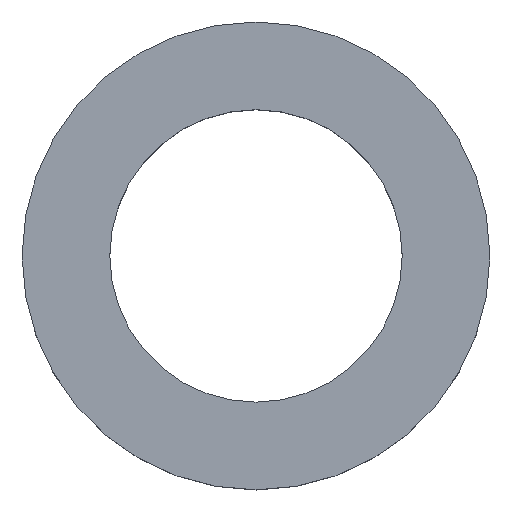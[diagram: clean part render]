
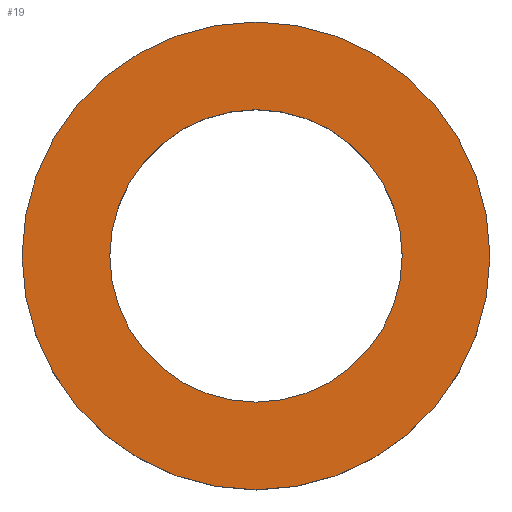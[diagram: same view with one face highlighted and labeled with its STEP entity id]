
A CAD part, top view. The second image highlights one B-rep face of the part: STEP entity #19.
In plain terms, the highlighted planar face has unit normal (0, 0, 1).
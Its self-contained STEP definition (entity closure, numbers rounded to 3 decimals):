
#15=FACE_BOUND('',#33,.T.);
#19=ADVANCED_FACE('',(#25,#15),#101,.T.);
#25=FACE_OUTER_BOUND('',#32,.T.);
#32=EDGE_LOOP('',(#48,#49));
#33=EDGE_LOOP('',(#50,#51));
#48=ORIENTED_EDGE('',*,*,#62,.T.);
#49=ORIENTED_EDGE('',*,*,#68,.T.);
#50=ORIENTED_EDGE('',*,*,#65,.T.);
#51=ORIENTED_EDGE('',*,*,#71,.T.);
#62=EDGE_CURVE('',#93,#97,#77,.T.);
#65=EDGE_CURVE('',#95,#99,#79,.T.);
#68=EDGE_CURVE('',#97,#93,#81,.T.);
#71=EDGE_CURVE('',#99,#95,#83,.T.);
#77=TRIMMED_CURVE($,#85,(#256),(#257),.T.,.CARTESIAN.);
#79=TRIMMED_CURVE($,#87,(#264),(#265),.T.,.CARTESIAN.);
#81=TRIMMED_CURVE($,#89,(#272),(#273),.T.,.CARTESIAN.);
#83=TRIMMED_CURVE($,#91,(#280),(#281),.T.,.CARTESIAN.);
#85=CIRCLE('',#201,4.);
#87=CIRCLE('',#203,2.5);
#89=CIRCLE('',#205,4.);
#91=CIRCLE('',#207,2.5);
#93=VERTEX_POINT('',#243);
#95=VERTEX_POINT('',#245);
#97=VERTEX_POINT('',#247);
#99=VERTEX_POINT('',#249);
#101=PLANE('',#197);
#197=AXIS2_PLACEMENT_3D('',#239,#214,$);
#201=AXIS2_PLACEMENT_3D($,#255,#219,#220);
#203=AXIS2_PLACEMENT_3D($,#263,#223,#224);
#205=AXIS2_PLACEMENT_3D($,#271,#227,#228);
#207=AXIS2_PLACEMENT_3D($,#279,#231,#232);
#214=DIRECTION('',(0.,0.,1.));
#219=DIRECTION('',(0.,0.,1.));
#220=DIRECTION('',(1.,0.,0.));
#223=DIRECTION('',(0.,0.,-1.));
#224=DIRECTION('',(1.,0.,0.));
#227=DIRECTION('',(0.,0.,1.));
#228=DIRECTION('',(-1.,0.,0.));
#231=DIRECTION('',(0.,0.,-1.));
#232=DIRECTION('',(-1.,0.,0.));
#239=CARTESIAN_POINT('',(-47.046,546.918,1.5));
#243=CARTESIAN_POINT('',(-38.046,551.918,1.5));
#245=CARTESIAN_POINT('',(-39.546,551.918,1.5));
#247=CARTESIAN_POINT('',(-46.046,551.918,1.5));
#249=CARTESIAN_POINT('',(-44.546,551.918,1.5));
#255=CARTESIAN_POINT('',(-42.046,551.918,1.5));
#256=CARTESIAN_POINT('',(-38.046,551.918,1.5));
#257=CARTESIAN_POINT('',(-46.046,551.918,1.5));
#263=CARTESIAN_POINT('',(-42.046,551.918,1.5));
#264=CARTESIAN_POINT('',(-39.546,551.918,1.5));
#265=CARTESIAN_POINT('',(-44.546,551.918,1.5));
#271=CARTESIAN_POINT('',(-42.046,551.918,1.5));
#272=CARTESIAN_POINT('',(-46.046,551.918,1.5));
#273=CARTESIAN_POINT('',(-38.046,551.918,1.5));
#279=CARTESIAN_POINT('',(-42.046,551.918,1.5));
#280=CARTESIAN_POINT('',(-44.546,551.918,1.5));
#281=CARTESIAN_POINT('',(-39.546,551.918,1.5));
